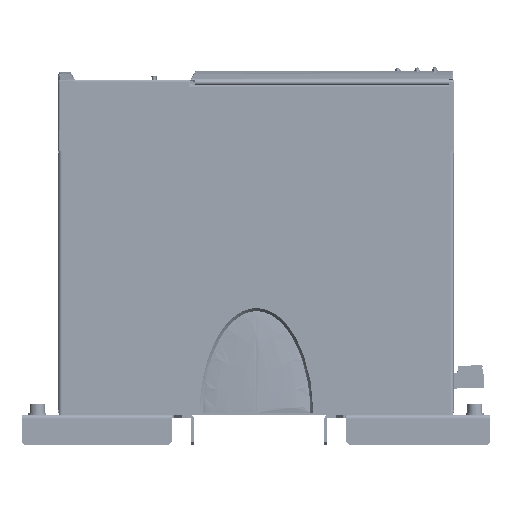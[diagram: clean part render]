
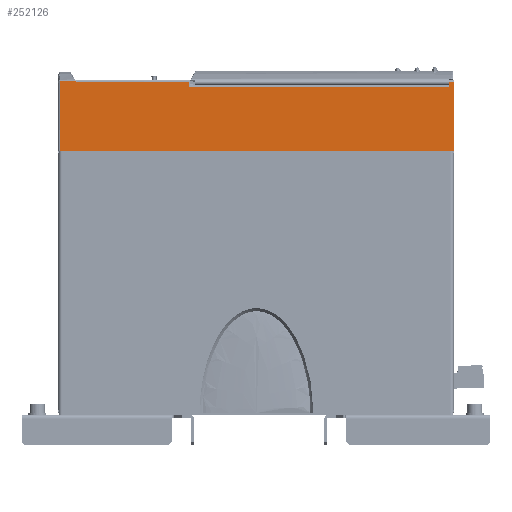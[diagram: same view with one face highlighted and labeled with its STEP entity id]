
A CAD part, left-side view. The second image highlights one B-rep face of the part: STEP entity #252126.
In plain terms, the highlighted planar face has unit normal (-1, 0, 0).
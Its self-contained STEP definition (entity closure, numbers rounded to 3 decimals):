
#33714=DIRECTION('',(0.,0.,1.));
#33715=VECTOR('',#33714,44.95);
#33716=CARTESIAN_POINT('',(0.11,-62.224,
600.319));
#33717=LINE('',#33716,#33715);
#35569=DIRECTION('',(0.,1.,0.));
#35570=VECTOR('',#35569,171.221);
#35571=CARTESIAN_POINT('',(0.11,-59.446,
642.315));
#35572=LINE('',#35571,#35570);
#35573=CARTESIAN_POINT('',(0.11,187.263,
646.457));
#35574=CARTESIAN_POINT('',(0.11,187.157,
646.457));
#35575=CARTESIAN_POINT('',(0.11,187.051,
646.42));
#35576=CARTESIAN_POINT('',(0.11,186.966,
646.354));
#35578=DIRECTION('',(0.,0.015,-1.));
#35579=VECTOR('',#35578,2.955);
#35580=CARTESIAN_POINT('',(0.11,-59.489,
645.269));
#35581=LINE('',#35580,#35579);
#35630=DIRECTION('',(0.,1.,0.));
#35631=VECTOR('',#35630,2.736);
#35632=CARTESIAN_POINT('',(0.11,-62.224,
645.269));
#35633=LINE('',#35632,#35631);
#35703=DIRECTION('',(0.,-1.,0.));
#35704=VECTOR('',#35703,259.);
#35705=CARTESIAN_POINT('',(0.11,196.776,
600.319));
#35706=LINE('',#35705,#35704);
#50857=DIRECTION('',(0.,0.001,1.));
#50858=VECTOR('',#50857,2.505);
#50859=CARTESIAN_POINT('',(0.11,111.776,
642.315));
#50860=LINE('',#50859,#50858);
#50868=DIRECTION('',(0.,0.015,1.));
#50869=VECTOR('',#50868,1.);
#50870=CARTESIAN_POINT('',(0.11,111.779,
644.819));
#50871=LINE('',#50870,#50869);
#51424=DIRECTION('',(0.,1.,0.));
#51425=VECTOR('',#51424,9.513);
#51426=CARTESIAN_POINT('',(0.11,187.263,
646.457));
#51427=LINE('',#51426,#51425);
#51460=DIRECTION('',(0.,0.,-1.));
#51461=VECTOR('',#51460,46.137);
#51462=CARTESIAN_POINT('',(0.11,196.776,
646.457));
#51463=LINE('',#51462,#51461);
#75015=CARTESIAN_POINT('',(0.11,185.621,
645.819));
#75016=CARTESIAN_POINT('',(0.11,185.783,
645.858));
#75017=CARTESIAN_POINT('',(0.11,186.099,
645.95));
#75018=CARTESIAN_POINT('',(0.11,186.588,
646.112));
#75019=CARTESIAN_POINT('',(0.11,186.847,
646.268));
#75020=CARTESIAN_POINT('',(0.11,186.966,
646.354));
#75043=DIRECTION('',(0.,1.,0.));
#75044=VECTOR('',#75043,73.828);
#75045=CARTESIAN_POINT('',(0.11,111.793,
645.819));
#75046=LINE('',#75045,#75044);
#155715=CARTESIAN_POINT('',(0.11,-59.446,
642.315));
#155716=CARTESIAN_POINT('',(0.11,111.776,
642.315));
#155717=VERTEX_POINT('',#155715);
#155718=VERTEX_POINT('',#155716);
#155719=CARTESIAN_POINT('',(0.11,-62.224,
645.269));
#155720=CARTESIAN_POINT('',(0.11,-59.489,
645.269));
#155721=VERTEX_POINT('',#155719);
#155722=VERTEX_POINT('',#155720);
#155723=CARTESIAN_POINT('',(0.11,-62.224,
600.319));
#155724=VERTEX_POINT('',#155723);
#155725=CARTESIAN_POINT('',(0.11,196.776,
600.319));
#155726=VERTEX_POINT('',#155725);
#155727=CARTESIAN_POINT('',(0.11,196.776,
646.457));
#155728=VERTEX_POINT('',#155727);
#155729=CARTESIAN_POINT('',(0.11,187.263,
646.457));
#155730=VERTEX_POINT('',#155729);
#155731=VERTEX_POINT('',#35576);
#155732=VERTEX_POINT('',#75015);
#155733=CARTESIAN_POINT('',(0.11,111.793,
645.819));
#155734=VERTEX_POINT('',#155733);
#155735=CARTESIAN_POINT('',(0.11,111.779,
644.819));
#155736=VERTEX_POINT('',#155735);
#252097=CARTESIAN_POINT('',(0.11,67.276,
623.388));
#252098=DIRECTION('',(1.,0.,0.));
#252099=DIRECTION('',(0.,-1.,0.));
#252100=AXIS2_PLACEMENT_3D('',#252097,#252098,#252099);
#252101=PLANE('',#252100);
#252102=ORIENTED_EDGE('',*,*,#252079,.F.);
#252104=ORIENTED_EDGE('',*,*,#252103,.F.);
#252106=ORIENTED_EDGE('',*,*,#252105,.F.);
#252107=ORIENTED_EDGE('',*,*,#248270,.F.);
#252109=ORIENTED_EDGE('',*,*,#252108,.F.);
#252111=ORIENTED_EDGE('',*,*,#252110,.F.);
#252113=ORIENTED_EDGE('',*,*,#252112,.F.);
#252115=ORIENTED_EDGE('',*,*,#252114,.T.);
#252117=ORIENTED_EDGE('',*,*,#252116,.F.);
#252119=ORIENTED_EDGE('',*,*,#252118,.F.);
#252121=ORIENTED_EDGE('',*,*,#252120,.F.);
#252123=ORIENTED_EDGE('',*,*,#252122,.F.);
#252124=EDGE_LOOP('',(#252102,#252104,#252106,#252107,#252109,#252111,#252113,
#252115,#252117,#252119,#252121,#252123));
#252125=FACE_OUTER_BOUND('',#252124,.F.);
#35577=B_SPLINE_CURVE_WITH_KNOTS('',3,(#35573,#35574,#35575,#35576),
.UNSPECIFIED.,.F.,.F.,(4,4),(0.,1.),.UNSPECIFIED.);
#75021=B_SPLINE_CURVE_WITH_KNOTS('',3,(#75015,#75016,#75017,#75018,#75019,
#75020),.UNSPECIFIED.,.F.,.F.,(4,1,1,4),(0.,0.333,
0.667,1.),.UNSPECIFIED.);
#248270=EDGE_CURVE('',#155724,#155721,#33717,.T.);
#252079=EDGE_CURVE('',#155717,#155718,#35572,.T.);
#252103=EDGE_CURVE('',#155722,#155717,#35581,.T.);
#252105=EDGE_CURVE('',#155721,#155722,#35633,.T.);
#252108=EDGE_CURVE('',#155726,#155724,#35706,.T.);
#252110=EDGE_CURVE('',#155728,#155726,#51463,.T.);
#252112=EDGE_CURVE('',#155730,#155728,#51427,.T.);
#252114=EDGE_CURVE('',#155730,#155731,#35577,.T.);
#252116=EDGE_CURVE('',#155732,#155731,#75021,.T.);
#252118=EDGE_CURVE('',#155734,#155732,#75046,.T.);
#252120=EDGE_CURVE('',#155736,#155734,#50871,.T.);
#252122=EDGE_CURVE('',#155718,#155736,#50860,.T.);
#252126=ADVANCED_FACE('',(#252125),#252101,.F.);
